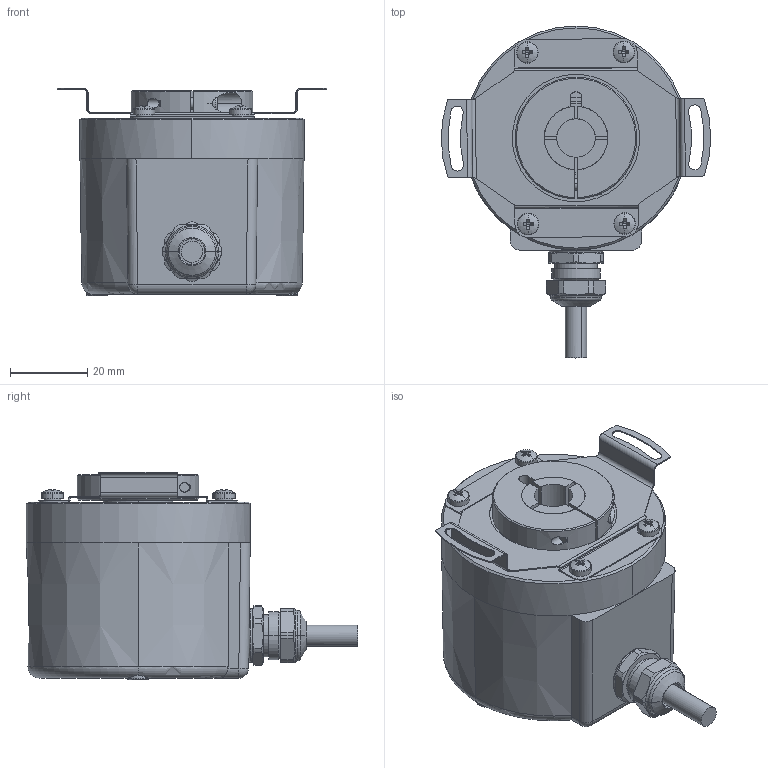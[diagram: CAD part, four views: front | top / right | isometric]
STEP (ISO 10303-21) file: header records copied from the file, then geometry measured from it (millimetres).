
FILE_DESCRIPTION (( 'STEP AP203' ), '1' );
FILE_NAME ('E58HM-SSI-342##.STEP', '2024-04-30T11:52:50', ( '' ), ( '' ), 'SwSTEP 2.0', 'SolidWorks 2023', '' );
FILE_SCHEMA (( 'CONFIG_CONTROL_DESIGN' ));
Length unit declared in the file: millimetre
Products named in the file (1): E58HM-SSI-342##
Bounding box: 69.8 x 85.87 x 53.7 mm (x, y, z)
Volume: 125446.7 mm3; surface area: 25248.6 mm2
Topology: 14 solids, 20 shells, 744 faces, 1790 edges, 1088 vertices
Faces by surface type: plane 367, cylinder 186, cone 109, torus 57, bspline 15, sphere 10
Entity records: 22265 total; most frequent: CARTESIAN_POINT 4972, DIRECTION 3700, ORIENTED_EDGE 3516, EDGE_CURVE 1758, AXIS2_PLACEMENT_3D 1418, VERTEX_POINT 1088, VECTOR 864, LINE 864
